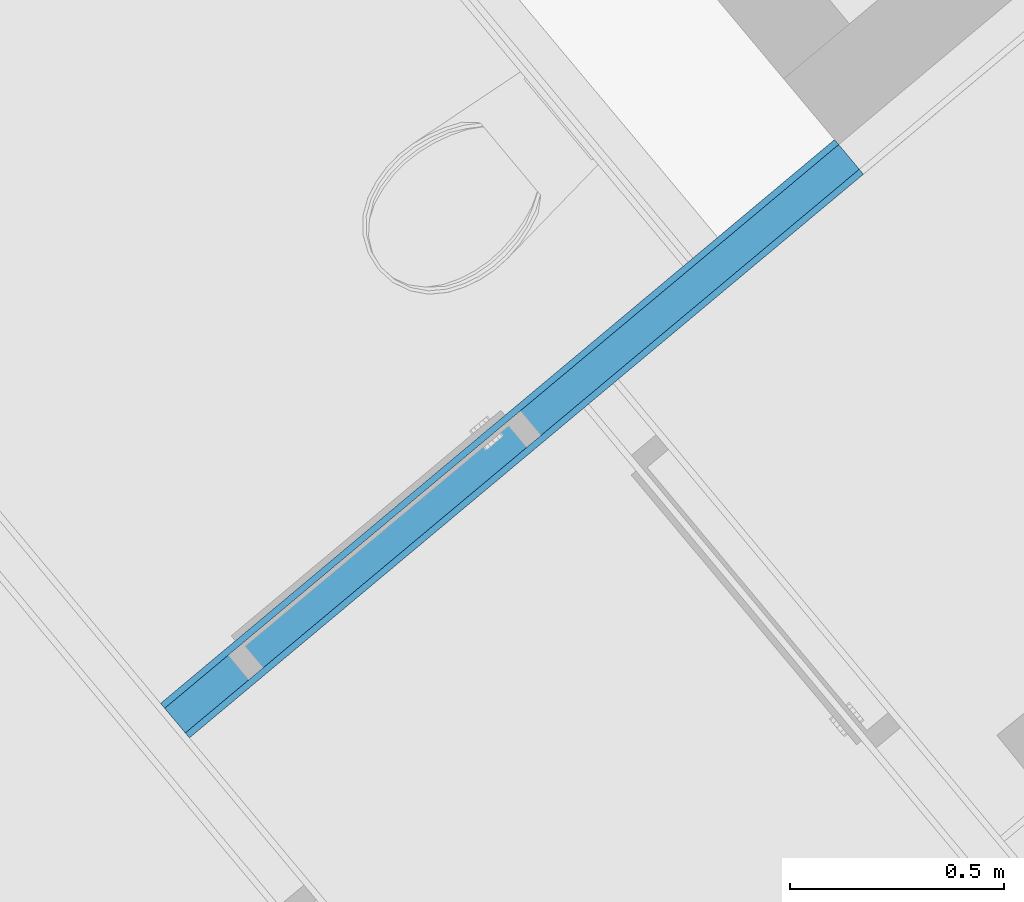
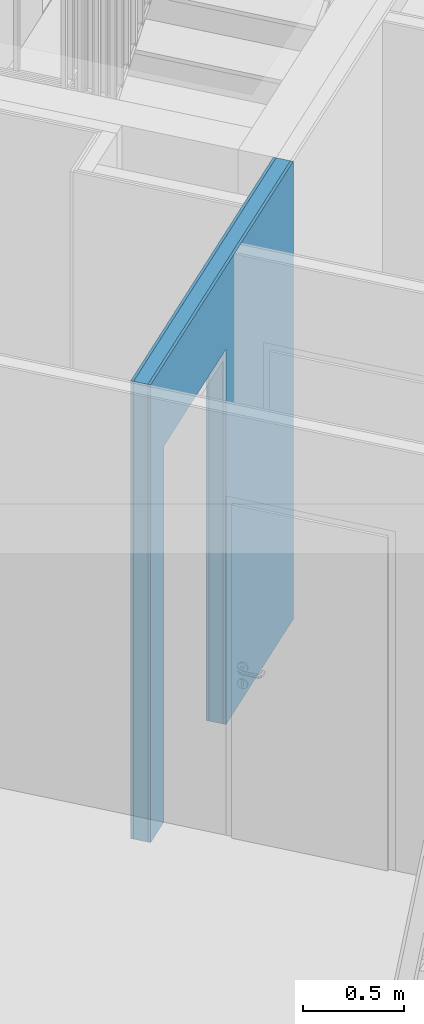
# One storey, part 3 of 61: 3 building element parts, 1 opening, 1 element without a shape of its own.
"""IFC4 building model written with IfcOpenShell, lengths in metres."""

from ifc_helpers import new_model, entity, si_unit, converted_unit, derived_unit, direction, frame, origin_with_axes, place, context, subcontext, project, spatial, polygons, material, type_object, element, aggregate, save


model = new_model("IFC4")

# Units and contexts
model_context = context("Model", 3, precision=1e-05, world=origin_with_axes(), true_north=direction((0.0, 1.0)))
body_context = subcontext(model_context, "Body", "Model", "MODEL_VIEW")
ifc_project = project(units=[si_unit("LENGTHUNIT", "METRE"), si_unit("AREAUNIT", "SQUARE_METRE"), si_unit("VOLUMEUNIT", "CUBIC_METRE"), converted_unit("PLANEANGLEUNIT", "DEGREE", entity("IfcPlaneAngleMeasure", 0.0174532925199), si_unit("PLANEANGLEUNIT", "RADIAN"), dimensions=[0, 0, 0, 0, 0, 0, 0]), converted_unit("TIMEUNIT", "Year", entity("IfcTimeMeasure", 31556926.0), si_unit("TIMEUNIT", "SECOND"), dimensions=[0, 0, 1, 0, 0, 0, 0]), si_unit("MASSUNIT", "GRAM", prefix="KILO"), si_unit("THERMODYNAMICTEMPERATUREUNIT", "DEGREE_CELSIUS"), si_unit("LUMINOUSINTENSITYUNIT", "LUMEN"), si_unit("ENERGYUNIT", "JOULE", prefix="MEGA"), derived_unit("THERMALCONDUCTANCEUNIT", [(si_unit("POWERUNIT", "WATT"), 1), (si_unit("LENGTHUNIT", "METRE"), -1), (si_unit("THERMODYNAMICTEMPERATUREUNIT", "KELVIN"), -1)]), derived_unit("SPECIFICHEATCAPACITYUNIT", [(si_unit("ENERGYUNIT", "JOULE"), 1), (si_unit("MASSUNIT", "GRAM", prefix="KILO"), -1), (si_unit("THERMODYNAMICTEMPERATUREUNIT", "KELVIN"), -1)]), derived_unit("MASSDENSITYUNIT", [(si_unit("MASSUNIT", "GRAM", prefix="KILO"), 1), (si_unit("VOLUMEUNIT", "CUBIC_METRE"), -1)])], contexts=[model_context])

# Site, building, storey
site_placement = place(None, frame((-0.00153261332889, -0.00661245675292, 0.0), z_axis=(0.0, 0.0, 1.0), x_axis=(1.0, 0.0, 0.0)))
site = spatial("IfcSite", under=ifc_project, at=site_placement, Name="Gelände", CompositionType="ELEMENT")
building_placement = place(site_placement, origin_with_axes())
building = spatial("IfcBuilding", under=site, at=building_placement, Name="Gebäude", CompositionType="ELEMENT")
storey_placement = place(building_placement, frame((0.0, 0.0, 5.7), z_axis=(0.0, 0.0, 1.0), x_axis=(1.0, 0.0, 0.0)))
storey = spatial("IfcBuildingStorey", under=building, at=storey_placement, Name="DG1", CompositionType="ELEMENT", Elevation=5.7)

# Wall, opening, building element parts
wall_type = type_object("IfcWallType", Name="IW LB 01 Leichtbautrennwand einfach 10,5 cm 105", PredefinedType="NOTDEFINED")
wall_placement = place(storey_placement, frame((-3.8779013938, 18.9137265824, 0.0), z_axis=(0.0, 0.0, 1.0), x_axis=(0.767062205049, 0.641572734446, 0.0)))
wall = element("IfcWall", 1, at=wall_placement, inside=storey, type_object=wall_type, Name="Wand-012", PredefinedType="NOTDEFINED")
opening_placement = place(wall_placement, frame((0.742573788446, 0.0, 0.22), z_axis=(0.0, 0.0, 1.0), x_axis=(1.0, 0.0, 0.0)))
element("IfcOpeningElement", 2, at=opening_placement, cuts=wall, Name="Tür-016", context=body_context, identifier="Reference", shape_type="Tessellation", body=[
    polygons([(-0.445, -1.16650854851, 2.045), (-0.445, -1.16650854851, -0.22), (0.445, -1.16650854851, -0.22), (0.445, -1.16650854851, 2.045), (-0.445, 1.06150854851, 2.045), (-0.445, 1.06150854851, -0.22), (0.445, 1.06150854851, -0.22), (0.445, 1.06150854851, 2.045)], [[[1, 2, 3, 4]], [[5, 6, 2, 1]], [[6, 7, 3, 2]], [[7, 8, 4, 3]], [[8, 5, 1, 4]], [[7, 6, 5, 8]]], closed=True),
])
ifc_material_1 = material(Name="Gipskarton")
building_element_part_1_placement = place(wall_placement, origin_with_axes())
building_element_part_1 = element("IfcBuildingElementPart", 3, at=building_element_part_1_placement, material=ifc_material_1, Name="Gipskarton", PredefinedType="NOTDEFINED", context=body_context, shape_type="Tessellation", body=[
    polygons([(0.297573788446, -0.015, 0.22), (0.297573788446, -0.015, 2.265), (1.18757378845, -0.015, 2.265), (1.18757378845, -0.015, 0.22), (1.18757378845, -0.015, 0.0), (2.15495244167, -0.015, 0.0), (2.15495244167, -0.015, 2.76), (0.104992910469, -0.015, 2.76), (0.104992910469, -0.015, 0.0), (0.297573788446, -0.015, 0.0), (0.297573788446, 3.45460549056e-09, 0.22), (0.297573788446, -8.58950244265e-10, 2.265), (1.18757378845, -8.58950244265e-10, 2.265), (1.18757378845, -8.58950244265e-10, 0.22), (1.18757378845, -8.58950244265e-10, 0.0), (2.15495244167, 0.0, 0.0), (2.15495244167, 0.0, 2.76), (0.105000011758, 0.0, 2.76), (0.105000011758, 0.0, 0.0), (0.297573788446, 3.45460549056e-09, 0.0)], [[[1, 2, 3, 4, 5, 6, 7, 8, 9, 10]], [[2, 1, 11, 12]], [[3, 2, 12, 13]], [[4, 3, 13, 14]], [[4, 14, 15, 5]], [[15, 16, 6, 5]], [[7, 6, 16, 17]], [[7, 17, 18, 8]], [[8, 18, 19, 9]], [[10, 9, 19, 20]], [[11, 1, 10, 20]], [[12, 11, 20, 19, 18, 17, 16, 15, 14, 13]]], closed=True),
])
ifc_material_2 = material(Name="Mineralwolle weich")
building_element_part_2_placement = place(wall_placement, origin_with_axes())
building_element_part_2 = element("IfcBuildingElementPart", 4, at=building_element_part_2_placement, material=ifc_material_2, Name="Mineralwolle weich", PredefinedType="NOTDEFINED", context=body_context, shape_type="Tessellation", body=[
    polygons([(0.297573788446, -0.09, 0.22), (0.297573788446, -0.09, 2.265), (1.18757378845, -0.09, 2.265), (1.18757378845, -0.09, 0.22), (1.18757378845, -0.09, 0.0), (2.15495244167, -0.09, 0.0), (2.15495244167, -0.09, 2.76), (0.104957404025, -0.09, 2.76), (0.104957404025, -0.09, 0.0), (0.297573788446, -0.09, 0.0), (0.297573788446, -0.015, 0.22), (0.297573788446, -0.015, 2.265), (1.18757378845, -0.015, 2.265), (1.18757378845, -0.015, 0.22), (1.18757378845, -0.015, 0.0), (2.15495244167, -0.015, 0.0), (2.15495244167, -0.015, 2.76), (0.104992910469, -0.015, 2.76), (0.104992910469, -0.015, 0.0), (0.297573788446, -0.015, 0.0)], [[[1, 2, 3, 4, 5, 6, 7, 8, 9, 10]], [[2, 1, 11, 12]], [[3, 2, 12, 13]], [[4, 3, 13, 14]], [[4, 14, 15, 5]], [[15, 16, 6, 5]], [[7, 6, 16, 17]], [[7, 17, 18, 8]], [[8, 18, 19, 9]], [[10, 9, 19, 20]], [[11, 1, 10, 20]], [[12, 11, 20, 19, 18, 17, 16, 15, 14, 13]]], closed=True),
])
building_element_part_3_placement = place(wall_placement, origin_with_axes())
building_element_part_3 = element("IfcBuildingElementPart", 5, at=building_element_part_3_placement, material=ifc_material_1, Name="Gipskarton", PredefinedType="NOTDEFINED", context=body_context, shape_type="Tessellation", body=[
    polygons([(0.297573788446, -0.105, 0.22), (0.297573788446, -0.105, 2.265), (1.18757378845, -0.105, 2.265), (1.18757378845, -0.105, 0.22), (1.18757378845, -0.105, 0.0), (2.15495244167, -0.105, 0.0), (2.15495244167, -0.105, 2.76), (0.104950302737, -0.105, 2.76), (0.104950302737, -0.105, 0.0), (0.297573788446, -0.105, 0.0), (0.297573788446, -0.09, 0.22), (0.297573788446, -0.09, 2.265), (1.18757378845, -0.09, 2.265), (1.18757378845, -0.09, 0.22), (1.18757378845, -0.09, 0.0), (2.15495244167, -0.09, 0.0), (2.15495244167, -0.09, 2.76), (0.104957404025, -0.09, 2.76), (0.104957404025, -0.09, 0.0), (0.297573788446, -0.09, 0.0)], [[[1, 2, 3, 4, 5, 6, 7, 8, 9, 10]], [[2, 1, 11, 12]], [[3, 2, 12, 13]], [[4, 3, 13, 14]], [[4, 14, 15, 5]], [[15, 16, 6, 5]], [[7, 6, 16, 17]], [[7, 17, 18, 8]], [[8, 18, 19, 9]], [[10, 9, 19, 20]], [[11, 1, 10, 20]], [[12, 11, 20, 19, 18, 17, 16, 15, 14, 13]]], closed=True),
])
aggregate(wall, [building_element_part_1, building_element_part_2, building_element_part_3])

save(model, "model.ifc")
